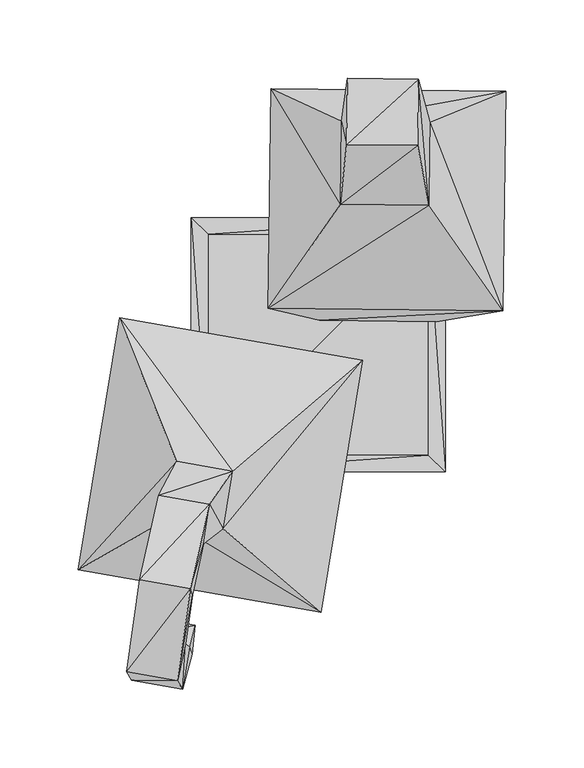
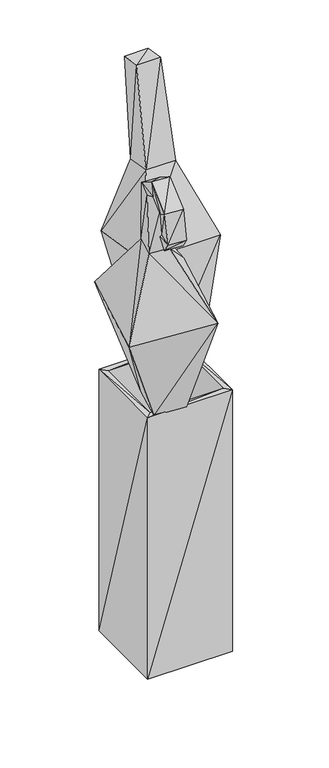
"""IFC4 building model written with IfcOpenShell, lengths in millimetres: geographic element geometry, Enscape AssetDefinition - Umbrella Holder : Enscape AssetDefinition - Umbrella Holder."""

import ifcopenshell
import ifcopenshell.guid

model = None  # the IFC model being written
_history = None  # IfcOwnerHistory: only IFC2X3 demands one
_inside = {}  # id of a spatial element -> (the spatial element, [elements in it])
_under = {}  # id of a project, library or spatial element -> (it, [spatial elements below it])
_declared = {}  # id of a project -> (the project, [libraries it declares])
_typed = {}  # id of a type object -> (the type object, [elements of that type])
_made_of = {}  # id of a material, layer set ... -> (it, [elements and type objects made of it])


def new_model(schema):
    """Start an empty IFC model of exactly this schema.

    Asked for "IFC4X3", IfcOpenShell would pick the latest addendum, in which some entities
    have other attributes; the version numbers below select the first issue.
    IFC2X3 requires an IfcOwnerHistory on every rooted entity: one is made here for all.
    """
    global model, _history
    if schema == "IFC4X3":
        model = ifcopenshell.file(schema_version=(4, 3, 0, 0))
    else:
        model = ifcopenshell.file(schema=schema)
    _inside.clear()
    _under.clear()
    _declared.clear()
    _typed.clear()
    _made_of.clear()
    _history = None
    if model.schema == "IFC2X3":
        org = make("IfcOrganization", Name="unknown")
        user = make(
            "IfcPersonAndOrganization",
            ThePerson=make("IfcPerson", FamilyName="unknown"),
            TheOrganization=org,
        )
        app = make(
            "IfcApplication",
            ApplicationDeveloper=org,
            Version="unknown",
            ApplicationFullName="unknown",
            ApplicationIdentifier="unknown",
        )
        _history = make(
            "IfcOwnerHistory",
            OwningUser=user,
            OwningApplication=app,
            ChangeAction="ADDED",
            CreationDate=0,
        )
    return model


def make(cls, **values):
    """One entity of the class cls with the attributes given. An attribute that is None is left unset."""
    return model.create_entity(
        cls, **{name: value for name, value in values.items() if value is not None}
    )


def rooted(cls, **values):
    """An entity with a GlobalId (a new one), such as an element, a storey or a relation."""
    return make(cls, GlobalId=ifcopenshell.guid.new(), OwnerHistory=_history, **values)


def si_unit(unit_type, name, prefix=None):
    """IfcSIUnit, for example si_unit("LENGTHUNIT", "METRE", prefix="MILLI")."""
    return make("IfcSIUnit", UnitType=unit_type, Prefix=prefix, Name=name)


def assignment(units):
    """IfcUnitAssignment: the units of a project."""
    return None if units is None else make("IfcUnitAssignment", Units=units)


def point(xyz):
    """IfcCartesianPoint."""
    return None if xyz is None else make("IfcCartesianPoint", Coordinates=xyz)


def direction(xyz):
    """IfcDirection."""
    return None if xyz is None else make("IfcDirection", DirectionRatios=xyz)


def frame(location, z_axis=None, x_axis=None):
    """IfcAxis2Placement3D, a coordinate frame: its origin and axes. An axis left out is left unset."""
    return make(
        "IfcAxis2Placement3D",
        Location=point(location),
        Axis=direction(z_axis),
        RefDirection=direction(x_axis),
    )


def origin():
    """The frame at (0, 0, 0) with its axes left unset."""
    return frame((0.0, 0.0, 0.0))


def place(relative_to, where):
    """IfcLocalPlacement: puts the frame where relative to a parent placement (None: the world)."""
    return make(
        "IfcLocalPlacement", PlacementRelTo=relative_to, RelativePlacement=where
    )


def context(
    kind, dimensions, precision=None, world=None, true_north=None, identifier=None
):
    """IfcGeometricRepresentationContext, for example the 3D "Model" context."""
    return make(
        "IfcGeometricRepresentationContext",
        ContextIdentifier=identifier,
        ContextType=kind,
        CoordinateSpaceDimension=dimensions,
        Precision=precision,
        WorldCoordinateSystem=world,
        TrueNorth=true_north,
    )


def project(units=None, contexts=None):
    """IfcProject with its units and contexts."""
    return rooted(
        "IfcProject",
        Name="project",
        RepresentationContexts=contexts,
        UnitsInContext=assignment(units),
    )


def spatial(cls, under=None, at=None, **own):
    """A site, building, storey or space (cls), placed at a placement, below another one or the project."""
    s = rooted(cls, ObjectPlacement=at, **own)
    if under is not None:
        _under.setdefault(under.id(), (under, []))[1].append(s)
    return s


def faces_of(points, faces, orient=None, outer=None):
    """IfcFace entities. A face is a list of loops; a loop is a list of indices into points, from 0.

    orient and outer hold one flag for each loop. By default every Orientation is true, the
    first loop of a face is its IfcFaceOuterBound and the others are IfcFaceBound.
    """
    made = []
    for i, loops in enumerate(faces):
        bounds = []
        for j, loop in enumerate(loops):
            is_outer = j == 0 if outer is None else outer[i][j]
            bounds.append(
                make(
                    "IfcFaceOuterBound" if is_outer else "IfcFaceBound",
                    Bound=make("IfcPolyLoop", Polygon=[points[k] for k in loop]),
                    Orientation=True if orient is None else orient[i][j],
                )
            )
        made.append(make("IfcFace", Bounds=bounds))
    return made


def faceted_brep(points, faces, orient=None, outer=None, voids=None):
    """IfcFacetedBrep: a solid bounded by flat faces; with voids (closed shells), ...WithVoids."""
    shared = [point(p) for p in points]
    hull = make("IfcClosedShell", CfsFaces=faces_of(shared, faces, orient, outer))
    if voids is None:
        return make("IfcFacetedBrep", Outer=hull)
    return make(
        "IfcFacetedBrepWithVoids",
        Outer=hull,
        Voids=[
            make(cls, CfsFaces=faces_of(shared, fs, o, b)) for cls, fs, o, b in voids
        ],
    )


def shape(context_of_items, identifier, shape_type, items):
    """IfcShapeRepresentation: the items that make up one representation, for example the "Body"."""
    return make(
        "IfcShapeRepresentation",
        ContextOfItems=context_of_items,
        RepresentationIdentifier=identifier,
        RepresentationType=shape_type,
        Items=items,
    )


def source(mapping_origin, context_of_items, identifier, shape_type, items):
    """IfcRepresentationMap: a shape defined once, which mapped items show again and again."""
    return make(
        "IfcRepresentationMap",
        MappingOrigin=mapping_origin,
        MappedRepresentation=shape(context_of_items, identifier, shape_type, items),
    )


def transform(
    local_origin,
    x_axis=None,
    y_axis=None,
    z_axis=None,
    scale=None,
    scale2=None,
    scale3=None,
    uniform=True,
):
    """IfcCartesianTransformationOperator3D, or its non-uniform kind. x_axis, y_axis, z_axis: its Axis1, 2, 3."""
    if uniform:
        return make(
            "IfcCartesianTransformationOperator3D",
            Axis1=direction(x_axis),
            Axis2=direction(y_axis),
            LocalOrigin=point(local_origin),
            Scale=scale,
            Axis3=direction(z_axis),
        )
    return make(
        "IfcCartesianTransformationOperator3DnonUniform",
        Axis1=direction(x_axis),
        Axis2=direction(y_axis),
        LocalOrigin=point(local_origin),
        Scale=scale,
        Axis3=direction(z_axis),
        Scale2=scale2,
        Scale3=scale3,
    )


def mapped(mapping_source, mapping_target):
    """IfcMappedItem: shows the shape of a source again, moved by a transform."""
    return make(
        "IfcMappedItem", MappingSource=mapping_source, MappingTarget=mapping_target
    )


def made_of(thing, what):
    """Note that an element or type object is made of a material, layer set ...; save() writes the relation."""
    if what is not None:
        _made_of.setdefault(what.id(), (what, []))[1].append(thing)
    return thing


def element(
    cls,
    number,
    at=None,
    inside=None,
    cuts=None,
    type_object=None,
    material=None,
    context=None,
    identifier="Body",
    shape_type=None,
    held_by="IfcProductDefinitionShape",
    body=None,
    shapes=None,
    **own,
):
    """One element of the class cls, such as IfcWall. Its Tag is "e" and its number.

    at: its placement. inside: the storey or other place that contains it. cuts: it is an
    opening in that element (IfcRelVoidsElement). A single representation is given by context,
    identifier, shape_type and body (its items); several are given by shapes. held_by: the class
    of the entity that holds the representations. save() writes the other relations.
    """
    e = rooted(cls, Tag="e%d" % number, ObjectPlacement=at, **own)
    if body is not None:
        shapes = [shape(context, identifier, shape_type, body)]
    if shapes is not None:
        e.Representation = make(held_by, Representations=shapes)
    if inside is not None:
        _inside.setdefault(inside.id(), (inside, []))[1].append(e)
    if cuts is not None:
        rooted(
            "IfcRelVoidsElement", RelatingBuildingElement=cuts, RelatedOpeningElement=e
        )
    if type_object is not None:
        _typed.setdefault(type_object.id(), (type_object, []))[1].append(e)
    return made_of(e, material)


def aggregate(whole, parts):
    """IfcRelAggregates: a whole, such as a stair, and the parts it consists of."""
    return rooted("IfcRelAggregates", RelatingObject=whole, RelatedObjects=parts)


def save(model, path):
    """Write the relations noted so far, then the file.

    IfcRelAggregates (storeys below a building ...), IfcRelContainedInSpatialStructure (elements
    in a storey), IfcRelDefinesByType, IfcRelAssociatesMaterial and IfcRelDeclares: one each for
    every whole, place, type object, material and project.
    """
    for whole, parts in _under.values():
        aggregate(whole, parts)
    for where, things in _inside.values():
        rooted(
            "IfcRelContainedInSpatialStructure",
            RelatedElements=things,
            RelatingStructure=where,
        )
    for kind, things in _typed.values():
        rooted("IfcRelDefinesByType", RelatedObjects=things, RelatingType=kind)
    for what, things in _made_of.values():
        rooted("IfcRelAssociatesMaterial", RelatedObjects=things, RelatingMaterial=what)
    for by, libraries in _declared.values():
        rooted("IfcRelDeclares", RelatingContext=by, RelatedDefinitions=libraries)
    model.write(path)


def geographic_element_edd7479c(model_context):
    return source(origin(), model_context, "Body", "Brep", [
        faceted_brep([(18.7330861, 170.0351536, 1077.4885416), (18.2131547, 127.6368052, 1084.8232508), (64.1312376, 169.5596576, 1077.9579878), (14.7332512, 142.7006871, 887.6382113), (14.0833212, 89.7013992, 896.8068361), (63.6113063, 127.1612942, 1085.292697), (70.8324313, 89.1069993, 897.3936439), (71.4823604, 142.1063095, 888.225019), (119.8192313, 161.7480814, 745.7854748), (-30.2260965, 163.3196771, 744.2338467), (118.1007996, 21.6173735, 770.0275183), (-31.9445245, 23.1889654, 768.4759498), (76.2463585, 84.3357444, 522.3822594), (1.7811593, 85.1156935, 521.612227), (75.3935277, 14.791009, 534.4130993), (0.9283293, 15.5709637, 533.6431265)], [[[0, 1, 2]], [[3, 4, 1]], [[2, 1, 5]], [[4, 5, 1]], [[3, 1, 0]], [[6, 7, 2]], [[6, 2, 5]], [[7, 0, 2]], [[7, 3, 0]], [[7, 8, 3]], [[3, 9, 4]], [[3, 8, 9]], [[6, 10, 7]], [[7, 10, 8]], [[4, 6, 5]], [[4, 11, 6]], [[6, 11, 10]], [[4, 9, 11]], [[12, 13, 9]], [[12, 9, 8]], [[13, 11, 9]], [[14, 12, 8]], [[14, 8, 10]], [[15, 14, 10]], [[15, 10, 11]], [[13, 15, 11]], [[14, 15, 13]], [[14, 13, 12]]]),
        faceted_brep([(-60.8155131, -117.6596656, 890.0453448), (1.8918465, -170.7674563, 748.2702732), (28.2951929, -9.8571116, 773.6544609), (-96.4736268, -111.4080995, 887.5063658), (-153.3323675, -143.5535848, 737.2181416), (-67.0700371, -76.9826472, 527.3118019), (-10.1905344, -86.9547352, 531.3616991), (-90.4082358, -74.4437948, 893.337667), (-126.9290298, 17.356731, 762.6023293), (-57.3949367, -18.0195887, 536.6134644), (-105.7348475, -121.3324368, 1015.6065226), (-73.1652603, -127.0425171, 1017.9253817), (-54.7501296, -80.6953609, 895.8765864), (-101.9997746, -96.0881785, 1025.3078938), (-112.8657013, -154.1330367, 1034.9920988), (-80.2961141, -159.8431319, 1037.3110771), (-81.6081762, -155.7422727, 1065.8365488), (-69.4301799, -101.7982587, 1027.6267529), (-84.6072137, -191.0908818, 1020.9175348), (-89.9862275, -214.7163153, 1038.2907391), (-114.177756, -150.0321329, 1063.5174513), (-117.1768159, -185.3807867, 1018.5985565), (-82.1208656, -193.1180358, 981.0059071), (-86.6203606, -220.1546729, 977.6271582), (-122.5558296, -209.0062201, 1035.97188), (-119.1899627, -214.4445628, 975.3082395), (-80.7256922, -197.6210326, 950.3232837), (-113.2953167, -191.9109076, 948.0041265), (-114.6904752, -187.4079108, 978.6868691), (-78.7206218, -179.2568564, 967.3807025), (-111.290209, -173.5467762, 965.0617838), (-0.5154332, -27.9916767, 540.6633615)], [[[0, 1, 2]], [[3, 4, 1]], [[5, 6, 1]], [[3, 1, 0]], [[6, 2, 1]], [[5, 1, 4]], [[7, 8, 4]], [[9, 5, 4]], [[7, 4, 3]], [[9, 4, 8]], [[7, 3, 10]], [[3, 0, 11]], [[3, 11, 10]], [[12, 7, 13]], [[12, 8, 7]], [[7, 10, 13]], [[14, 10, 15]], [[14, 13, 10]], [[15, 10, 11]], [[15, 11, 16]], [[0, 17, 11]], [[16, 11, 17]], [[18, 15, 19]], [[19, 15, 16]], [[18, 14, 15]], [[20, 13, 14]], [[21, 14, 18]], [[21, 20, 14]], [[22, 18, 23]], [[23, 18, 19]], [[22, 21, 18]], [[19, 16, 24]], [[23, 19, 25]], [[25, 19, 24]], [[26, 23, 27]], [[26, 22, 23]], [[27, 23, 25]], [[28, 21, 22]], [[29, 22, 26]], [[29, 28, 22]], [[29, 26, 27]], [[27, 25, 30]], [[29, 27, 30]], [[25, 24, 28]], [[30, 25, 28]], [[30, 28, 29]], [[28, 24, 21]], [[24, 20, 21]], [[24, 16, 20]], [[16, 17, 20]], [[0, 12, 17]], [[12, 13, 17]], [[20, 17, 13]], [[12, 2, 8]], [[0, 2, 12]], [[6, 31, 2]], [[31, 8, 2]], [[31, 9, 8]], [[31, 6, 9]], [[9, 6, 5]]]),
        faceted_brep([(81.2355503, -81.2355429, -5.2e-06), (-81.2355429, -81.2355429, -5.2e-06), (81.2355429, 81.235528, 2.6e-06), (-81.2355354, -81.2354982, 530.7388902), (81.2355503, -81.2354982, 530.7388902), (-81.2355429, 81.235528, 0.0), (81.2355429, 81.2355727, 530.7388902), (-81.2355354, 81.2355727, 530.7388902), (70.4041421, -70.4040825, 530.7388902), (70.4041421, 70.4041794, 530.7388902), (-70.4041272, -70.4040974, 530.7388902), (-70.4041198, 70.4041794, 530.7389498), (70.4041421, 70.4041421, 34.2070423), (-70.4041272, 70.4041421, 34.2070386), (70.4041421, -70.4041123, 34.2070349), (-70.4041272, -70.4041123, 34.2070311)], [[[0, 1, 2]], [[3, 1, 4]], [[2, 1, 5]], [[4, 1, 0]], [[3, 5, 1]], [[6, 2, 7]], [[6, 0, 2]], [[7, 2, 5]], [[4, 0, 6]], [[8, 4, 9]], [[8, 3, 4]], [[9, 4, 6]], [[7, 5, 3]], [[10, 3, 8]], [[10, 7, 3]], [[11, 7, 10]], [[11, 6, 7]], [[9, 6, 11]], [[12, 9, 13]], [[12, 8, 9]], [[13, 9, 11]], [[14, 8, 12]], [[14, 10, 8]], [[15, 10, 14]], [[15, 11, 10]], [[13, 11, 15]], [[15, 12, 13]], [[15, 14, 12]]]),
    ])


if __name__ == "__main__":
    model = new_model("IFC4")
    model_context = context("Model", 3, world=origin())
    ifc_project = project(units=[si_unit("LENGTHUNIT", "METRE", prefix="MILLI")], contexts=[model_context])
    site = spatial("IfcSite", under=ifc_project)
    building = spatial("IfcBuilding", under=site)
    placement = place(None, origin())
    geographic_element_shape = geographic_element_edd7479c(model_context)
    element("IfcGeographicElement", 1, ObjectType="Enscape AssetDefinition - Umbrella Holder : Enscape AssetDefinition - Umbrella Holder", at=placement, inside=building, context=model_context, shape_type="MappedRepresentation", body=[
        mapped(geographic_element_shape, transform((0.0, 0.0, 0.0), x_axis=(1.0, 0.0, 0.0), y_axis=(0.0, 1.0, 0.0), z_axis=(0.0, 0.0, 1.0))),
    ])
    save(model, "model.ifc")
